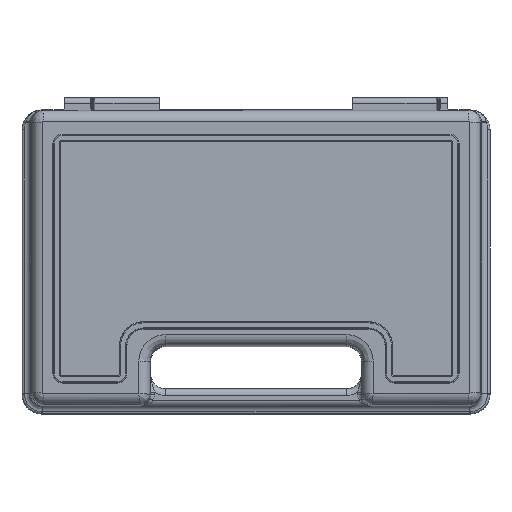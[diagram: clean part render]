
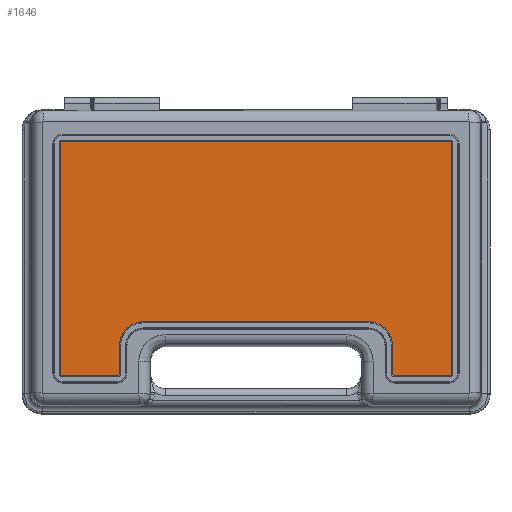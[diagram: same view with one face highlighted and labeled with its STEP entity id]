
A CAD part, top view. The second image highlights one B-rep face of the part: STEP entity #1646.
In plain terms, the highlighted planar face has unit normal (0, 0, 1).
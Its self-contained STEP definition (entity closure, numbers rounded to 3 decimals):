
#910=CIRCLE('',#11738,11.3);
#911=CIRCLE('',#11739,0.7);
#912=CIRCLE('',#11740,0.7);
#913=CIRCLE('',#11741,0.7);
#914=CIRCLE('',#11742,0.7);
#915=CIRCLE('',#11743,0.7);
#916=CIRCLE('',#11744,0.7);
#917=CIRCLE('',#11745,11.3);
#1646=ADVANCED_FACE('',(#2519),#2085,.F.);
#2085=PLANE('',#11746);
#2519=FACE_OUTER_BOUND('',#3231,.T.);
#3231=EDGE_LOOP('',(#5575,#5576,#5577,#5578,#5579,#5580,#5581,#5582,#5583,
#5584,#5585,#5586,#5587,#5588,#5589,#5590));
#5575=ORIENTED_EDGE('',*,*,#9006,.T.);
#5576=ORIENTED_EDGE('',*,*,#9007,.F.);
#5577=ORIENTED_EDGE('',*,*,#9008,.F.);
#5578=ORIENTED_EDGE('',*,*,#9009,.F.);
#5579=ORIENTED_EDGE('',*,*,#9010,.F.);
#5580=ORIENTED_EDGE('',*,*,#9011,.F.);
#5581=ORIENTED_EDGE('',*,*,#9012,.F.);
#5582=ORIENTED_EDGE('',*,*,#9013,.F.);
#5583=ORIENTED_EDGE('',*,*,#9014,.T.);
#5584=ORIENTED_EDGE('',*,*,#9015,.T.);
#5585=ORIENTED_EDGE('',*,*,#9016,.T.);
#5586=ORIENTED_EDGE('',*,*,#9017,.T.);
#5587=ORIENTED_EDGE('',*,*,#9018,.T.);
#5588=ORIENTED_EDGE('',*,*,#9019,.T.);
#5589=ORIENTED_EDGE('',*,*,#9020,.T.);
#5590=ORIENTED_EDGE('',*,*,#9021,.T.);
#7698=VERTEX_POINT('',#19919);
#7699=VERTEX_POINT('',#19920);
#7700=VERTEX_POINT('',#19922);
#7701=VERTEX_POINT('',#19924);
#7702=VERTEX_POINT('',#19926);
#7703=VERTEX_POINT('',#19928);
#7704=VERTEX_POINT('',#19930);
#7705=VERTEX_POINT('',#19932);
#7706=VERTEX_POINT('',#19934);
#7707=VERTEX_POINT('',#19936);
#7708=VERTEX_POINT('',#19938);
#7709=VERTEX_POINT('',#19940);
#7710=VERTEX_POINT('',#19942);
#7711=VERTEX_POINT('',#19944);
#7712=VERTEX_POINT('',#19946);
#7713=VERTEX_POINT('',#19948);
#9006=EDGE_CURVE('',#7698,#7699,#10150,.T.);
#9007=EDGE_CURVE('',#7700,#7699,#910,.T.);
#9008=EDGE_CURVE('',#7701,#7700,#10151,.T.);
#9009=EDGE_CURVE('',#7702,#7701,#911,.T.);
#9010=EDGE_CURVE('',#7703,#7702,#10152,.T.);
#9011=EDGE_CURVE('',#7704,#7703,#912,.T.);
#9012=EDGE_CURVE('',#7705,#7704,#10153,.T.);
#9013=EDGE_CURVE('',#7706,#7705,#913,.T.);
#9014=EDGE_CURVE('',#7706,#7707,#10154,.T.);
#9015=EDGE_CURVE('',#7707,#7708,#914,.T.);
#9016=EDGE_CURVE('',#7708,#7709,#10155,.T.);
#9017=EDGE_CURVE('',#7709,#7710,#915,.T.);
#9018=EDGE_CURVE('',#7710,#7711,#10156,.T.);
#9019=EDGE_CURVE('',#7711,#7712,#916,.T.);
#9020=EDGE_CURVE('',#7712,#7713,#10157,.T.);
#9021=EDGE_CURVE('',#7713,#7698,#917,.T.);
#10150=LINE('',#19918,#10846);
#10151=LINE('',#19923,#10847);
#10152=LINE('',#19927,#10848);
#10153=LINE('',#19931,#10849);
#10154=LINE('',#19935,#10850);
#10155=LINE('',#19939,#10851);
#10156=LINE('',#19943,#10852);
#10157=LINE('',#19947,#10853);
#10846=VECTOR('',#13893,1.);
#10847=VECTOR('',#13896,1.);
#10848=VECTOR('',#13899,1.);
#10849=VECTOR('',#13902,1.);
#10850=VECTOR('',#13905,1.);
#10851=VECTOR('',#13908,1.);
#10852=VECTOR('',#13911,1.);
#10853=VECTOR('',#13914,1.);
#11738=AXIS2_PLACEMENT_3D('',#19921,#13894,#13895);
#11739=AXIS2_PLACEMENT_3D('',#19925,#13897,#13898);
#11740=AXIS2_PLACEMENT_3D('',#19929,#13900,#13901);
#11741=AXIS2_PLACEMENT_3D('',#19933,#13903,#13904);
#11742=AXIS2_PLACEMENT_3D('',#19937,#13906,#13907);
#11743=AXIS2_PLACEMENT_3D('',#19941,#13909,#13910);
#11744=AXIS2_PLACEMENT_3D('',#19945,#13912,#13913);
#11745=AXIS2_PLACEMENT_3D('',#19949,#13915,#13916);
#11746=AXIS2_PLACEMENT_3D('',#19950,#13917,#13918);
#13893=DIRECTION('',(1.,0.,0.));
#13894=DIRECTION('',(0.,0.,1.));
#13895=DIRECTION('',(1.,0.,0.));
#13896=DIRECTION('',(0.,1.,0.));
#13897=DIRECTION('',(0.,0.,-1.));
#13898=DIRECTION('',(1.,0.,0.));
#13899=DIRECTION('',(-1.,0.,0.));
#13900=DIRECTION('',(0.,0.,-1.));
#13901=DIRECTION('',(1.,0.,0.));
#13902=DIRECTION('',(0.,-1.,0.));
#13903=DIRECTION('',(0.,0.,-1.));
#13904=DIRECTION('',(1.,0.,0.));
#13905=DIRECTION('',(-1.,0.,0.));
#13906=DIRECTION('',(0.,0.,1.));
#13907=DIRECTION('',(-1.,0.,0.));
#13908=DIRECTION('',(0.,-1.,0.));
#13909=DIRECTION('',(0.,0.,1.));
#13910=DIRECTION('',(-1.,0.,0.));
#13911=DIRECTION('',(1.,0.,0.));
#13912=DIRECTION('',(0.,0.,1.));
#13913=DIRECTION('',(-1.,0.,0.));
#13914=DIRECTION('',(0.,1.,0.));
#13915=DIRECTION('',(0.,0.,-1.));
#13916=DIRECTION('',(-1.,0.,0.));
#13917=DIRECTION('',(0.,0.,-1.));
#13918=DIRECTION('',(1.,0.,0.));
#19918=CARTESIAN_POINT('',(0.,-103.65,20.5));
#19919=CARTESIAN_POINT('',(-53.5,-103.65,20.5));
#19920=CARTESIAN_POINT('',(53.5,-103.65,20.5));
#19921=CARTESIAN_POINT('',(53.5,-114.95,20.5));
#19922=CARTESIAN_POINT('',(64.8,-114.95,20.5));
#19923=CARTESIAN_POINT('',(64.8,0.,20.5));
#19924=CARTESIAN_POINT('',(64.8,-128.45,20.5));
#19925=CARTESIAN_POINT('',(65.5,-128.45,20.5));
#19926=CARTESIAN_POINT('',(65.5,-129.15,20.5));
#19927=CARTESIAN_POINT('',(0.,-129.15,20.5));
#19928=CARTESIAN_POINT('',(92.,-129.15,20.5));
#19929=CARTESIAN_POINT('',(92.,-128.45,20.5));
#19930=CARTESIAN_POINT('',(92.7,-128.45,20.5));
#19931=CARTESIAN_POINT('',(92.7,0.,20.5));
#19932=CARTESIAN_POINT('',(92.7,-18.95,20.5));
#19933=CARTESIAN_POINT('',(92.,-18.95,20.5));
#19934=CARTESIAN_POINT('',(92.,-18.25,20.5));
#19935=CARTESIAN_POINT('',(0.,-18.25,20.5));
#19936=CARTESIAN_POINT('',(-92.,-18.25,20.5));
#19937=CARTESIAN_POINT('',(-92.,-18.95,20.5));
#19938=CARTESIAN_POINT('',(-92.7,-18.95,20.5));
#19939=CARTESIAN_POINT('',(-92.7,0.,20.5));
#19940=CARTESIAN_POINT('',(-92.7,-128.45,20.5));
#19941=CARTESIAN_POINT('',(-92.,-128.45,20.5));
#19942=CARTESIAN_POINT('',(-92.,-129.15,20.5));
#19943=CARTESIAN_POINT('',(0.,-129.15,20.5));
#19944=CARTESIAN_POINT('',(-65.5,-129.15,20.5));
#19945=CARTESIAN_POINT('',(-65.5,-128.45,20.5));
#19946=CARTESIAN_POINT('',(-64.8,-128.45,20.5));
#19947=CARTESIAN_POINT('',(-64.8,0.,20.5));
#19948=CARTESIAN_POINT('',(-64.8,-114.95,20.5));
#19949=CARTESIAN_POINT('',(-53.5,-114.95,20.5));
#19950=CARTESIAN_POINT('',(0.,0.,20.5));
